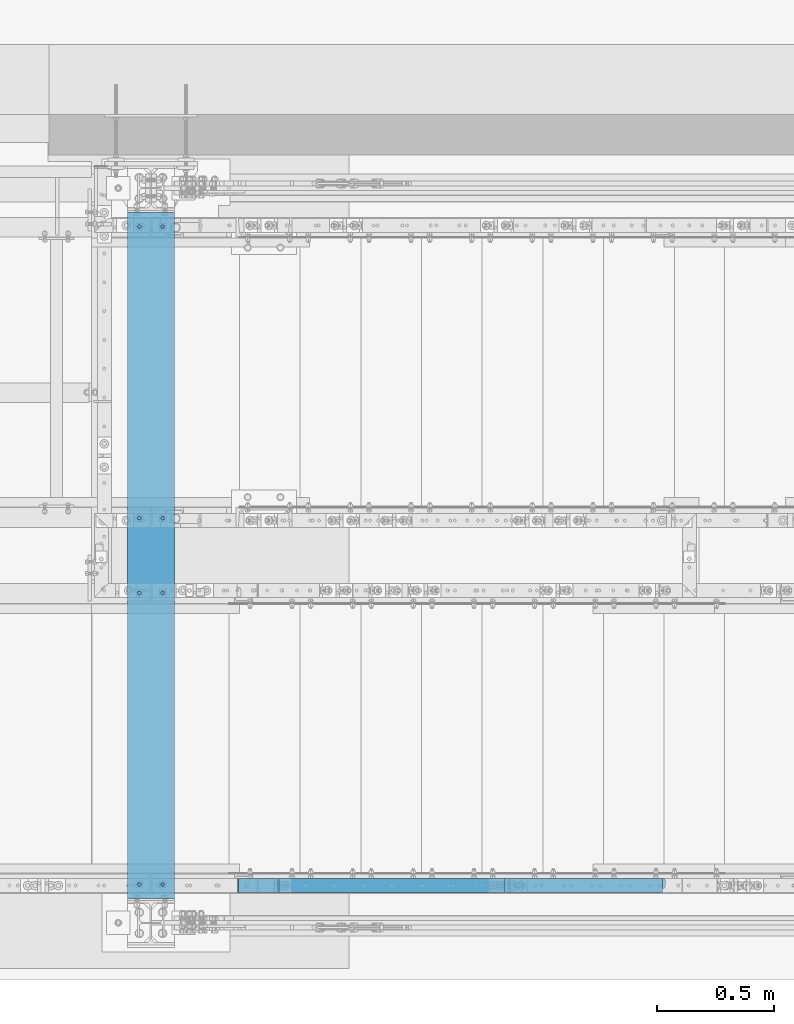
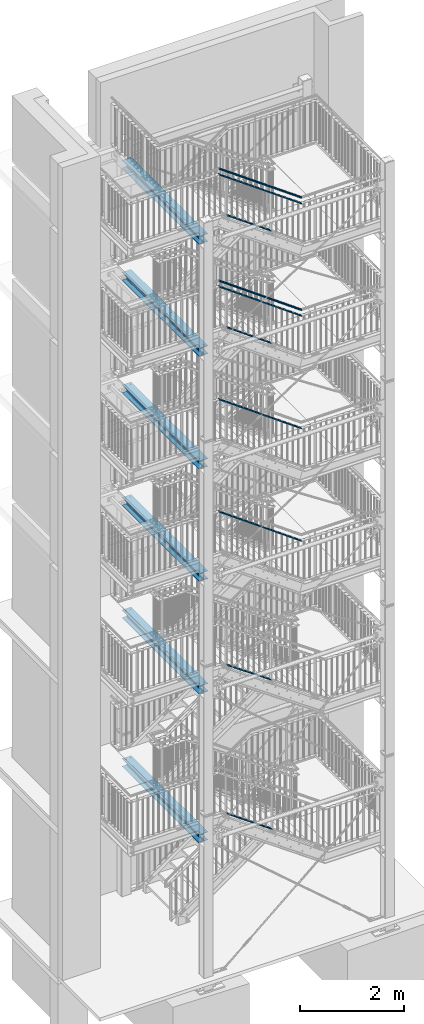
# One storey, part 120 of 831: 10 members, 6 beams, 44 openings.
"""IFC2X3 building model written with IfcOpenShell, lengths in millimetres."""

from ifc_helpers import new_model, entity, si_unit, converted_unit, frame, frame_2d, origin, origin_with_axes, origin_2d, origin_2d_with_axis, place, context, project, spatial, rectangle, circle, hollow_circle, i_section, extrude, clip, halfspace, material, element, save


model = new_model("IFC2X3")

# Units and contexts
model_context = context("Model", 3, precision=1e-09, world=origin_with_axes())
ifc_project = project(units=[si_unit("LENGTHUNIT", "METRE", prefix="MILLI"), si_unit("AREAUNIT", "SQUARE_METRE"), si_unit("VOLUMEUNIT", "CUBIC_METRE"), converted_unit("PLANEANGLEUNIT", "DEGREE", entity("IfcPlaneAngleMeasure", 0.01745329), si_unit("PLANEANGLEUNIT", "RADIAN"), dimensions=[0, 0, 0, 0, 0, 0, 0])], contexts=[model_context])

# Site, building, storey
site_placement = place(None, origin_with_axes())
site = spatial("IfcSite", under=ifc_project, at=site_placement, Name="Site", CompositionType="ELEMENT")
building_placement = place(site_placement, origin_with_axes())
building = spatial("IfcBuilding", under=site, at=building_placement, Name="Struktur 1", CompositionType="ELEMENT")
storey_placement = place(building_placement, origin_with_axes())
storey = spatial("IfcBuildingStorey", under=building, at=storey_placement, Name="Default Storey", CompositionType="ELEMENT", Elevation=0.0)

# Members
ifc_material = material(Name="S235JR")
member_1_placement = place(None, frame((7082.241910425, 4535.536971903, 15018.019885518), z_axis=(0.810033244, 0.0, -0.586383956), x_axis=(-0.586383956, 0.0, -0.810033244)))
element("IfcMember", 1, at=member_1_placement, inside=storey, material=ifc_material, Name="Gel?nder", ObjectType="Gel?nder", context=model_context, shape_type="Clipping", body=[
    clip(clip(extrude(hollow_circle(Radius=21.2, WallThickness=3.2, at=origin_2d()), origin(), (0.0, 0.0, -1.0), 2309.852130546), halfspace(frame((15677.254505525, -4535.536971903, 5047.335316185), z_axis=(0.308193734, 0.0, -0.951323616), x_axis=(0.0, -1.0, 0.0)), True)), halfspace(frame((16336.003889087, -4535.536971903, 3013.926535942), z_axis=(-0.308193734, 0.0, 0.951323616), x_axis=(0.0, 1.0, 0.0)), True)),
])
member_2_placement = place(None, frame((6369.360054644, 4526.736971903, 14514.319464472), z_axis=(0.810033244, 0.0, -0.586383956), x_axis=(-0.586383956, 0.0, -0.810033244)))
element("IfcMember", 2, at=member_2_placement, inside=storey, material=ifc_material, Name="Railing_Kneerail_Stair#16", ObjectType="Railing_Kneerail_Stair#16", context=model_context, shape_type="SweptSolid", body=[
    extrude(rectangle(XDim=10.0, YDim=60.0, at=origin_2d()), origin(), (0.0, 0.0, -1.0), 1190.242882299),
])
member_3_placement = place(None, frame((7082.280686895, 4535.536971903, 17645.597175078), z_axis=(0.811618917, 0.0, -0.584187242), x_axis=(-0.584187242, 0.0, -0.811618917)))
element("IfcMember", 3, at=member_3_placement, inside=storey, material=ifc_material, Name="Gel?nder", ObjectType="Gel?nder", context=model_context, shape_type="Clipping", body=[
    clip(clip(extrude(hollow_circle(Radius=21.2, WallThickness=3.2, at=origin_2d()), origin(), (0.0, 0.0, -1.0), 2305.43488958), halfspace(frame((18716.438937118, -4535.536971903, 3761.500887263), z_axis=(-0.306904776, 0.0, 0.951740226), x_axis=(0.0, 1.0, 0.0)), True)), halfspace(frame((18061.439551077, -4535.536971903, 5792.714841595), z_axis=(0.306904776, 0.0, -0.951740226), x_axis=(0.0, -1.0, 0.0)), True)),
])
member_4_placement = place(None, frame((6369.371038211, 4526.736971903, 17138.82228556), z_axis=(0.811618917, 0.0, -0.584187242), x_axis=(-0.584187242, 0.0, -0.811618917)))
element("IfcMember", 4, at=member_4_placement, inside=storey, material=ifc_material, Name="Railing_Kneerail_Stair#16", ObjectType="Railing_Kneerail_Stair#16", context=model_context, shape_type="SweptSolid", body=[
    extrude(rectangle(XDim=10.0, YDim=60.0, at=origin_2d()), origin(), (0.0, 0.0, -1.0), 1187.944551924),
])
member_5_placement = place(None, frame((7046.956167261, 4526.736971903, 17538.741905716), z_axis=(0.811618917, 0.0, -0.584187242), x_axis=(-0.584187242, 0.0, -0.811618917)))
element("IfcMember", 5, at=member_5_placement, inside=storey, material=ifc_material, Name="Railing_Kneerail_Stair#1015", ObjectType="Railing_Kneerail_Stair#1015", context=model_context, shape_type="SweptSolid", body=[
    extrude(rectangle(XDim=10.0, YDim=60.0, at=origin_2d()), origin(), (0.0, 0.0, -1.0), 2239.207046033),
])
member_6_placement = place(None, frame((7046.913465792, 4526.736971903, 14911.249833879), z_axis=(0.810033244, 0.0, -0.586383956), x_axis=(-0.586383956, 0.0, -0.810033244)))
element("IfcMember", 6, at=member_6_placement, inside=storey, material=ifc_material, Name="Railing_Kneerail_Stair#1015", ObjectType="Railing_Kneerail_Stair#1015", context=model_context, shape_type="SweptSolid", body=[
    extrude(rectangle(XDim=10.0, YDim=60.0, at=origin_2d()), origin(), (0.0, 0.0, -1.0), 2243.581734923),
])
member_7_placement = place(None, frame((7046.936219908, 4526.736971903, 12280.245605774), z_axis=(0.810878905, 0.0, -0.585213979), x_axis=(-0.585213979, 0.0, -0.810878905)))
element("IfcMember", 7, at=member_7_placement, inside=storey, material=ifc_material, Name="Railing_Kneerail_Stair#1015", ObjectType="Railing_Kneerail_Stair#1015", context=model_context, shape_type="SweptSolid", body=[
    extrude(rectangle(XDim=10.0, YDim=60.0, at=origin_2d()), origin(), (0.0, 0.0, -1.0), 2241.24651141),
])
member_8_placement = place(None, frame((7046.92199323, 4526.736971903, 9650.74824821), z_axis=(0.810350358, 0.0, -0.585945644), x_axis=(-0.585945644, 0.0, -0.810350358)))
element("IfcMember", 8, at=member_8_placement, inside=storey, material=ifc_material, Name="Railing_Kneerail_Stair#1017", ObjectType="Railing_Kneerail_Stair#1017", context=model_context, shape_type="SweptSolid", body=[
    extrude(rectangle(XDim=10.0, YDim=60.0, at=origin_2d()), origin(), (0.0, 0.0, -1.0), 2242.705476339),
])
member_9_placement = place(None, frame((6393.620004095, 4526.736971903, 3143.138407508), z_axis=(0.814635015, 0.0, -0.579973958), x_axis=(-0.579973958, 0.0, -0.814635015)))
element("IfcMember", 9, at=member_9_placement, inside=storey, material=ifc_material, Name="Railing_Kneerail_Stair#14", ObjectType="Railing_Kneerail_Stair#14", context=model_context, shape_type="SweptSolid", body=[
    extrude(rectangle(XDim=10.0, YDim=60.0, at=origin_2d()), origin(), (0.0, 0.0, -1.0), 1218.06374537),
])
member_10_placement = place(None, frame((6369.416333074, 4526.736971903, 6643.124526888), z_axis=(0.818063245, 0.0, -0.57512827), x_axis=(-0.57512827, 0.0, -0.818063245)))
element("IfcMember", 10, at=member_10_placement, inside=storey, material=ifc_material, Name="Railing_Kneerail_Stair#16", ObjectType="Railing_Kneerail_Stair#16", context=model_context, shape_type="SweptSolid", body=[
    extrude(rectangle(XDim=10.0, YDim=60.0, at=origin_2d()), origin(), (0.0, 0.0, -1.0), 1178.697204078),
])

# Beam, openings
beam_1_placement = place(None, frame((4856.713402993, 7559.668114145, 14879.0), z_axis=(0.0, -1.0, 0.0), x_axis=(-1.0, 0.0, 0.0)))
beam_1 = element("IfcBeam", 11, at=beam_1_placement, inside=storey, material=ifc_material, Name="Girder", ObjectType="Girder", context=model_context, shape_type="Clipping", body=[
    clip(clip(extrude(i_section(OverallWidth=200.0, OverallDepth=190.0, WebThickness=6.5, FlangeThickness=10.0, FilletRadius=18.0, at=origin_2d()), origin(), (0.0, 0.0, 1.0), 3235.862284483), halfspace(frame((4856.713402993, 14879.0, 3087.930142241), z_axis=(0.0, 0.0, -1.0), x_axis=(1.0, 0.0, 0.0)), True)), halfspace(frame((4856.713402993, 14879.0, 147.932142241), z_axis=(0.0, 0.0, 1.0), x_axis=(-1.0, 0.0, 0.0)), True)),
])
opening_1_placement = place(beam_1_placement, frame((-50.0, -84.5, 1784.932142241), z_axis=(0.0, 1.0, 0.0), x_axis=(-1.0, 0.0, 0.0)))
element("IfcOpeningElement", 12, at=opening_1_placement, cuts=beam_1, ObjectType="Opening", context=model_context, shape_type="SweptSolid", body=[
    extrude(circle(Radius=7.001, at=frame_2d((0.0, -7.001), x_axis=(1.0, 0.0))), origin(), (0.0, 0.0, -1.0), 11.0),
])
opening_2_placement = place(beam_1_placement, frame((50.0, -84.5, 207.931142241), z_axis=(0.0, -1.0, 0.0), x_axis=(0.0, 0.0, -1.0)))
element("IfcOpeningElement", 13, at=opening_2_placement, cuts=beam_1, ObjectType="Opening", context=model_context, shape_type="SweptSolid", body=[
    extrude(circle(Radius=7.001, at=origin_2d_with_axis()), origin(), (0.0, 0.0, 1.0), 11.0),
])
opening_3_placement = place(beam_1_placement, frame((-50.0, -84.5, 1457.931142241), z_axis=(0.0, -1.0, 0.0), x_axis=(0.0, 0.0, -1.0)))
element("IfcOpeningElement", 14, at=opening_3_placement, cuts=beam_1, ObjectType="Opening", context=model_context, shape_type="SweptSolid", body=[
    extrude(circle(Radius=7.001, at=origin_2d_with_axis()), origin(), (0.0, 0.0, 1.0), 11.0),
])
opening_4_placement = place(beam_1_placement, frame((50.0, -84.5, 3034.932142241), z_axis=(0.0, 1.0, 0.0), x_axis=(-1.0, 0.0, 0.0)))
element("IfcOpeningElement", 15, at=opening_4_placement, cuts=beam_1, ObjectType="Opening", context=model_context, shape_type="SweptSolid", body=[
    extrude(circle(Radius=7.001, at=frame_2d((0.0, -7.001), x_axis=(1.0, 0.0))), origin(), (0.0, 0.0, -1.0), 11.0),
])
opening_5_placement = place(beam_1_placement, frame((-50.0, -84.5, 207.931142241), z_axis=(0.0, -1.0, 0.0), x_axis=(0.0, 0.0, -1.0)))
element("IfcOpeningElement", 16, at=opening_5_placement, cuts=beam_1, ObjectType="Opening", context=model_context, shape_type="SweptSolid", body=[
    extrude(circle(Radius=7.001, at=origin_2d_with_axis()), origin(), (0.0, 0.0, 1.0), 11.0),
])
opening_6_placement = place(beam_1_placement, frame((50.0, -84.5, 1457.931142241), z_axis=(0.0, -1.0, 0.0), x_axis=(0.0, 0.0, -1.0)))
element("IfcOpeningElement", 17, at=opening_6_placement, cuts=beam_1, ObjectType="Opening", context=model_context, shape_type="SweptSolid", body=[
    extrude(circle(Radius=7.001, at=origin_2d_with_axis()), origin(), (0.0, 0.0, 1.0), 11.0),
])
opening_7_placement = place(beam_1_placement, frame((-50.0, -84.5, 3034.932142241), z_axis=(0.0, 1.0, 0.0), x_axis=(-1.0, 0.0, 0.0)))
element("IfcOpeningElement", 18, at=opening_7_placement, cuts=beam_1, ObjectType="Opening", context=model_context, shape_type="SweptSolid", body=[
    extrude(circle(Radius=7.001, at=frame_2d((0.0, -7.001), x_axis=(1.0, 0.0))), origin(), (0.0, 0.0, -1.0), 11.0),
])
opening_8_placement = place(beam_1_placement, frame((50.0, -84.5, 1784.932142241), z_axis=(0.0, 1.0, 0.0), x_axis=(-1.0, 0.0, 0.0)))
element("IfcOpeningElement", 19, at=opening_8_placement, cuts=beam_1, ObjectType="Opening", context=model_context, shape_type="SweptSolid", body=[
    extrude(circle(Radius=7.001, at=frame_2d((0.0, -7.001), x_axis=(1.0, 0.0))), origin(), (0.0, 0.0, -1.0), 11.0),
])

beam_2_placement = place(None, frame((4856.713402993, 7559.668114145, 12244.0), z_axis=(0.0, -1.0, 0.0), x_axis=(-1.0, 0.0, 0.0)))
beam_2 = element("IfcBeam", 20, at=beam_2_placement, inside=storey, material=ifc_material, Name="Girder", ObjectType="Girder", context=model_context, shape_type="Clipping", body=[
    clip(clip(extrude(i_section(OverallWidth=200.0, OverallDepth=190.0, WebThickness=6.5, FlangeThickness=10.0, FilletRadius=18.0, at=origin_2d()), origin(), (0.0, 0.0, 1.0), 3235.862284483), halfspace(frame((4856.713402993, 12244.0, 3087.930142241), z_axis=(0.0, 0.0, -1.0), x_axis=(1.0, 0.0, 0.0)), True)), halfspace(frame((4856.713402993, 12244.0, 147.932142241), z_axis=(0.0, 0.0, 1.0), x_axis=(-1.0, 0.0, 0.0)), True)),
])
opening_9_placement = place(beam_2_placement, frame((-50.0, -84.5, 1784.932142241), z_axis=(0.0, 1.0, 0.0), x_axis=(-1.0, 0.0, 0.0)))
element("IfcOpeningElement", 21, at=opening_9_placement, cuts=beam_2, ObjectType="Opening", context=model_context, shape_type="SweptSolid", body=[
    extrude(circle(Radius=7.001, at=frame_2d((0.0, -7.001), x_axis=(1.0, 0.0))), origin(), (0.0, 0.0, -1.0), 11.0),
])
opening_10_placement = place(beam_2_placement, frame((50.0, -84.5, 207.931142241), z_axis=(0.0, -1.0, 0.0), x_axis=(0.0, 0.0, -1.0)))
element("IfcOpeningElement", 22, at=opening_10_placement, cuts=beam_2, ObjectType="Opening", context=model_context, shape_type="SweptSolid", body=[
    extrude(circle(Radius=7.001, at=origin_2d_with_axis()), origin(), (0.0, 0.0, 1.0), 11.0),
])
opening_11_placement = place(beam_2_placement, frame((-50.0, -84.5, 207.931142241), z_axis=(0.0, -1.0, 0.0), x_axis=(0.0, 0.0, -1.0)))
element("IfcOpeningElement", 23, at=opening_11_placement, cuts=beam_2, ObjectType="Opening", context=model_context, shape_type="SweptSolid", body=[
    extrude(circle(Radius=7.001, at=origin_2d_with_axis()), origin(), (0.0, 0.0, 1.0), 11.0),
])
opening_12_placement = place(beam_2_placement, frame((-50.0, -84.5, 1457.931142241), z_axis=(0.0, -1.0, 0.0), x_axis=(0.0, 0.0, -1.0)))
element("IfcOpeningElement", 24, at=opening_12_placement, cuts=beam_2, ObjectType="Opening", context=model_context, shape_type="SweptSolid", body=[
    extrude(circle(Radius=7.001, at=origin_2d_with_axis()), origin(), (0.0, 0.0, 1.0), 11.0),
])
opening_13_placement = place(beam_2_placement, frame((50.0, -84.5, 3034.932142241), z_axis=(0.0, 1.0, 0.0), x_axis=(-1.0, 0.0, 0.0)))
element("IfcOpeningElement", 25, at=opening_13_placement, cuts=beam_2, ObjectType="Opening", context=model_context, shape_type="SweptSolid", body=[
    extrude(circle(Radius=7.001, at=frame_2d((0.0, -7.001), x_axis=(1.0, 0.0))), origin(), (0.0, 0.0, -1.0), 11.0),
])
opening_14_placement = place(beam_2_placement, frame((50.0, -84.5, 1784.932142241), z_axis=(0.0, 1.0, 0.0), x_axis=(-1.0, 0.0, 0.0)))
element("IfcOpeningElement", 26, at=opening_14_placement, cuts=beam_2, ObjectType="Opening", context=model_context, shape_type="SweptSolid", body=[
    extrude(circle(Radius=7.001, at=frame_2d((0.0, -7.001), x_axis=(1.0, 0.0))), origin(), (0.0, 0.0, -1.0), 11.0),
])
opening_15_placement = place(beam_2_placement, frame((-50.0, -84.5, 3034.932142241), z_axis=(0.0, 1.0, 0.0), x_axis=(-1.0, 0.0, 0.0)))
element("IfcOpeningElement", 27, at=opening_15_placement, cuts=beam_2, ObjectType="Opening", context=model_context, shape_type="SweptSolid", body=[
    extrude(circle(Radius=7.001, at=frame_2d((0.0, -7.001), x_axis=(1.0, 0.0))), origin(), (0.0, 0.0, -1.0), 11.0),
])
opening_16_placement = place(beam_2_placement, frame((50.0, -84.5, 1457.931142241), z_axis=(0.0, -1.0, 0.0), x_axis=(0.0, 0.0, -1.0)))
element("IfcOpeningElement", 28, at=opening_16_placement, cuts=beam_2, ObjectType="Opening", context=model_context, shape_type="SweptSolid", body=[
    extrude(circle(Radius=7.001, at=origin_2d_with_axis()), origin(), (0.0, 0.0, 1.0), 11.0),
])

beam_3_placement = place(None, frame((4856.713402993, 7559.668114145, 9617.0), z_axis=(0.0, -1.0, 0.0), x_axis=(-1.0, 0.0, 0.0)))
beam_3 = element("IfcBeam", 29, at=beam_3_placement, inside=storey, material=ifc_material, Name="Girder", ObjectType="Girder", context=model_context, shape_type="Clipping", body=[
    clip(clip(extrude(i_section(OverallWidth=200.0, OverallDepth=190.0, WebThickness=6.5, FlangeThickness=10.0, FilletRadius=18.0, at=origin_2d()), origin(), (0.0, 0.0, 1.0), 3235.862284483), halfspace(frame((4856.713402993, 9617.0, 3087.930142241), z_axis=(0.0, 0.0, -1.0), x_axis=(1.0, 0.0, 0.0)), True)), halfspace(frame((4856.713402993, 9617.0, 147.932142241), z_axis=(0.0, 0.0, 1.0), x_axis=(-1.0, 0.0, 0.0)), True)),
])
opening_17_placement = place(beam_3_placement, frame((-50.0, -84.5, 1784.932142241), z_axis=(0.0, 1.0, 0.0), x_axis=(-1.0, 0.0, 0.0)))
element("IfcOpeningElement", 30, at=opening_17_placement, cuts=beam_3, ObjectType="Opening", context=model_context, shape_type="SweptSolid", body=[
    extrude(circle(Radius=7.001, at=frame_2d((0.0, -7.001), x_axis=(1.0, 0.0))), origin(), (0.0, 0.0, -1.0), 11.0),
])
opening_18_placement = place(beam_3_placement, frame((50.0, -84.5, 1457.931142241), z_axis=(0.0, -1.0, 0.0), x_axis=(0.0, 0.0, -1.0)))
element("IfcOpeningElement", 31, at=opening_18_placement, cuts=beam_3, ObjectType="Opening", context=model_context, shape_type="SweptSolid", body=[
    extrude(circle(Radius=7.001, at=origin_2d_with_axis()), origin(), (0.0, 0.0, 1.0), 11.0),
])
opening_19_placement = place(beam_3_placement, frame((-50.0, -84.5, 1457.931142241), z_axis=(0.0, -1.0, 0.0), x_axis=(0.0, 0.0, -1.0)))
element("IfcOpeningElement", 32, at=opening_19_placement, cuts=beam_3, ObjectType="Opening", context=model_context, shape_type="SweptSolid", body=[
    extrude(circle(Radius=7.001, at=origin_2d_with_axis()), origin(), (0.0, 0.0, 1.0), 11.0),
])
opening_20_placement = place(beam_3_placement, frame((50.0, -84.5, 207.931142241), z_axis=(0.0, -1.0, 0.0), x_axis=(0.0, 0.0, -1.0)))
element("IfcOpeningElement", 33, at=opening_20_placement, cuts=beam_3, ObjectType="Opening", context=model_context, shape_type="SweptSolid", body=[
    extrude(circle(Radius=7.001, at=origin_2d_with_axis()), origin(), (0.0, 0.0, 1.0), 11.0),
])
opening_21_placement = place(beam_3_placement, frame((50.0, -84.5, 3034.932142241), z_axis=(0.0, 1.0, 0.0), x_axis=(-1.0, 0.0, 0.0)))
element("IfcOpeningElement", 34, at=opening_21_placement, cuts=beam_3, ObjectType="Opening", context=model_context, shape_type="SweptSolid", body=[
    extrude(circle(Radius=7.001, at=frame_2d((0.0, -7.001), x_axis=(1.0, 0.0))), origin(), (0.0, 0.0, -1.0), 11.0),
])
opening_22_placement = place(beam_3_placement, frame((-50.0, -84.5, 3034.932142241), z_axis=(0.0, 1.0, 0.0), x_axis=(-1.0, 0.0, 0.0)))
element("IfcOpeningElement", 35, at=opening_22_placement, cuts=beam_3, ObjectType="Opening", context=model_context, shape_type="SweptSolid", body=[
    extrude(circle(Radius=7.001, at=frame_2d((0.0, -7.001), x_axis=(1.0, 0.0))), origin(), (0.0, 0.0, -1.0), 11.0),
])
opening_23_placement = place(beam_3_placement, frame((-50.0, -84.5, 207.931142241), z_axis=(0.0, -1.0, 0.0), x_axis=(0.0, 0.0, -1.0)))
element("IfcOpeningElement", 36, at=opening_23_placement, cuts=beam_3, ObjectType="Opening", context=model_context, shape_type="SweptSolid", body=[
    extrude(circle(Radius=7.001, at=origin_2d_with_axis()), origin(), (0.0, 0.0, 1.0), 11.0),
])
opening_24_placement = place(beam_3_placement, frame((50.0, -84.5, 1784.932142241), z_axis=(0.0, 1.0, 0.0), x_axis=(-1.0, 0.0, 0.0)))
element("IfcOpeningElement", 37, at=opening_24_placement, cuts=beam_3, ObjectType="Opening", context=model_context, shape_type="SweptSolid", body=[
    extrude(circle(Radius=7.001, at=frame_2d((0.0, -7.001), x_axis=(1.0, 0.0))), origin(), (0.0, 0.0, -1.0), 11.0),
])

beam_4_placement = place(None, frame((4856.713402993, 7559.668114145, 6985.0), z_axis=(0.0, -1.0, 0.0), x_axis=(-1.0, 0.0, 0.0)))
beam_4 = element("IfcBeam", 38, at=beam_4_placement, inside=storey, material=ifc_material, Name="Girder", ObjectType="Girder", context=model_context, shape_type="Clipping", body=[
    clip(clip(extrude(i_section(OverallWidth=200.0, OverallDepth=190.0, WebThickness=6.5, FlangeThickness=10.0, FilletRadius=18.0, at=origin_2d()), origin(), (0.0, 0.0, 1.0), 3235.862284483), halfspace(frame((4856.713402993, 6985.0, 147.932142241), z_axis=(0.0, 0.0, 1.0), x_axis=(-1.0, 0.0, 0.0)), True)), halfspace(frame((4856.713402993, 6985.0, 3087.930142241), z_axis=(0.0, 0.0, -1.0), x_axis=(1.0, 0.0, 0.0)), True)),
])
opening_25_placement = place(beam_4_placement, frame((50.0, -84.5, 1784.932142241), z_axis=(0.0, 1.0, 0.0), x_axis=(-1.0, 0.0, 0.0)))
element("IfcOpeningElement", 39, at=opening_25_placement, cuts=beam_4, ObjectType="Opening", context=model_context, shape_type="SweptSolid", body=[
    extrude(circle(Radius=7.001, at=frame_2d((0.0, -7.001), x_axis=(1.0, 0.0))), origin(), (0.0, 0.0, -1.0), 11.0),
])
opening_26_placement = place(beam_4_placement, frame((50.0, -84.5, 1457.931142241), z_axis=(0.0, -1.0, 0.0), x_axis=(0.0, 0.0, -1.0)))
element("IfcOpeningElement", 40, at=opening_26_placement, cuts=beam_4, ObjectType="Opening", context=model_context, shape_type="SweptSolid", body=[
    extrude(circle(Radius=7.001, at=origin_2d_with_axis()), origin(), (0.0, 0.0, 1.0), 11.0),
])
opening_27_placement = place(beam_4_placement, frame((-50.0, -84.5, 1784.932142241), z_axis=(0.0, 1.0, 0.0), x_axis=(-1.0, 0.0, 0.0)))
element("IfcOpeningElement", 41, at=opening_27_placement, cuts=beam_4, ObjectType="Opening", context=model_context, shape_type="SweptSolid", body=[
    extrude(circle(Radius=7.001, at=frame_2d((0.0, -7.001), x_axis=(1.0, 0.0))), origin(), (0.0, 0.0, -1.0), 11.0),
])
opening_28_placement = place(beam_4_placement, frame((-50.0, -84.5, 1457.931142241), z_axis=(0.0, -1.0, 0.0), x_axis=(0.0, 0.0, -1.0)))
element("IfcOpeningElement", 42, at=opening_28_placement, cuts=beam_4, ObjectType="Opening", context=model_context, shape_type="SweptSolid", body=[
    extrude(circle(Radius=7.001, at=origin_2d_with_axis()), origin(), (0.0, 0.0, 1.0), 11.0),
])
opening_29_placement = place(beam_4_placement, frame((50.0, -84.5, 3034.932142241), z_axis=(0.0, 1.0, 0.0), x_axis=(-1.0, 0.0, 0.0)))
element("IfcOpeningElement", 43, at=opening_29_placement, cuts=beam_4, ObjectType="Opening", context=model_context, shape_type="SweptSolid", body=[
    extrude(circle(Radius=7.001, at=frame_2d((0.0, -7.001), x_axis=(1.0, 0.0))), origin(), (0.0, 0.0, -1.0), 11.0),
])
opening_30_placement = place(beam_4_placement, frame((-50.0, -84.5, 3034.932142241), z_axis=(0.0, 1.0, 0.0), x_axis=(-1.0, 0.0, 0.0)))
element("IfcOpeningElement", 44, at=opening_30_placement, cuts=beam_4, ObjectType="Opening", context=model_context, shape_type="SweptSolid", body=[
    extrude(circle(Radius=7.001, at=frame_2d((0.0, -7.001), x_axis=(1.0, 0.0))), origin(), (0.0, 0.0, -1.0), 11.0),
])
opening_31_placement = place(beam_4_placement, frame((50.0, -84.5, 207.931142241), z_axis=(0.0, -1.0, 0.0), x_axis=(0.0, 0.0, -1.0)))
element("IfcOpeningElement", 45, at=opening_31_placement, cuts=beam_4, ObjectType="Opening", context=model_context, shape_type="SweptSolid", body=[
    extrude(circle(Radius=7.001, at=origin_2d_with_axis()), origin(), (0.0, 0.0, 1.0), 11.0),
])
opening_32_placement = place(beam_4_placement, frame((-50.0, -84.5, 207.931142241), z_axis=(0.0, -1.0, 0.0), x_axis=(0.0, 0.0, -1.0)))
element("IfcOpeningElement", 46, at=opening_32_placement, cuts=beam_4, ObjectType="Opening", context=model_context, shape_type="SweptSolid", body=[
    extrude(circle(Radius=7.001, at=origin_2d_with_axis()), origin(), (0.0, 0.0, 1.0), 11.0),
])

beam_5_placement = place(None, frame((4856.713402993, 7559.668114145, 3512.0), z_axis=(0.0, -1.0, 0.0), x_axis=(-1.0, 0.0, 0.0)))
beam_5 = element("IfcBeam", 47, at=beam_5_placement, inside=storey, material=ifc_material, Name="Girder", ObjectType="Girder", context=model_context, shape_type="Clipping", body=[
    clip(clip(extrude(i_section(OverallWidth=200.0, OverallDepth=190.0, WebThickness=6.5, FlangeThickness=10.0, FilletRadius=18.0, at=origin_2d()), origin(), (0.0, 0.0, 1.0), 3235.862284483), halfspace(frame((4856.713402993, 3512.0, 3087.930142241), z_axis=(0.0, 0.0, -1.0), x_axis=(1.0, 0.0, 0.0)), True)), halfspace(frame((4856.713402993, 3512.0, 147.932142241), z_axis=(0.0, 0.0, 1.0), x_axis=(-1.0, 0.0, 0.0)), True)),
])
opening_33_placement = place(beam_5_placement, frame((50.0, -84.5, 1784.932142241), z_axis=(0.0, 1.0, 0.0), x_axis=(-1.0, 0.0, 0.0)))
element("IfcOpeningElement", 48, at=opening_33_placement, cuts=beam_5, ObjectType="Opening", context=model_context, shape_type="SweptSolid", body=[
    extrude(circle(Radius=7.001, at=frame_2d((0.0, -7.001), x_axis=(1.0, 0.0))), origin(), (0.0, 0.0, -1.0), 11.0),
])
opening_34_placement = place(beam_5_placement, frame((-50.0, -84.5, 1457.931142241), z_axis=(0.0, -1.0, 0.0), x_axis=(0.0, 0.0, -1.0)))
element("IfcOpeningElement", 49, at=opening_34_placement, cuts=beam_5, ObjectType="Opening", context=model_context, shape_type="SweptSolid", body=[
    extrude(circle(Radius=7.001, at=origin_2d_with_axis()), origin(), (0.0, 0.0, 1.0), 11.0),
])
opening_35_placement = place(beam_5_placement, frame((50.0, -84.5, 1457.931142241), z_axis=(0.0, -1.0, 0.0), x_axis=(0.0, 0.0, -1.0)))
element("IfcOpeningElement", 50, at=opening_35_placement, cuts=beam_5, ObjectType="Opening", context=model_context, shape_type="SweptSolid", body=[
    extrude(circle(Radius=7.001, at=origin_2d_with_axis()), origin(), (0.0, 0.0, 1.0), 11.0),
])
opening_36_placement = place(beam_5_placement, frame((50.0, -84.5, 207.931142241), z_axis=(0.0, -1.0, 0.0), x_axis=(0.0, 0.0, -1.0)))
element("IfcOpeningElement", 51, at=opening_36_placement, cuts=beam_5, ObjectType="Opening", context=model_context, shape_type="SweptSolid", body=[
    extrude(circle(Radius=7.001, at=origin_2d_with_axis()), origin(), (0.0, 0.0, 1.0), 11.0),
])
opening_37_placement = place(beam_5_placement, frame((50.0, -84.5, 3034.932142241), z_axis=(0.0, 1.0, 0.0), x_axis=(-1.0, 0.0, 0.0)))
element("IfcOpeningElement", 52, at=opening_37_placement, cuts=beam_5, ObjectType="Opening", context=model_context, shape_type="SweptSolid", body=[
    extrude(circle(Radius=7.001, at=frame_2d((0.0, -7.001), x_axis=(1.0, 0.0))), origin(), (0.0, 0.0, -1.0), 11.0),
])
opening_38_placement = place(beam_5_placement, frame((-50.0, -84.5, 3034.932142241), z_axis=(0.0, 1.0, 0.0), x_axis=(-1.0, 0.0, 0.0)))
element("IfcOpeningElement", 53, at=opening_38_placement, cuts=beam_5, ObjectType="Opening", context=model_context, shape_type="SweptSolid", body=[
    extrude(circle(Radius=7.001, at=frame_2d((0.0, -7.001), x_axis=(1.0, 0.0))), origin(), (0.0, 0.0, -1.0), 11.0),
])
opening_39_placement = place(beam_5_placement, frame((-50.0, -84.5, 1784.932142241), z_axis=(0.0, 1.0, 0.0), x_axis=(-1.0, 0.0, 0.0)))
element("IfcOpeningElement", 54, at=opening_39_placement, cuts=beam_5, ObjectType="Opening", context=model_context, shape_type="SweptSolid", body=[
    extrude(circle(Radius=7.001, at=frame_2d((0.0, -7.001), x_axis=(1.0, 0.0))), origin(), (0.0, 0.0, -1.0), 11.0),
])
opening_40_placement = place(beam_5_placement, frame((-50.0, -84.5, 207.931142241), z_axis=(0.0, -1.0, 0.0), x_axis=(0.0, 0.0, -1.0)))
element("IfcOpeningElement", 55, at=opening_40_placement, cuts=beam_5, ObjectType="Opening", context=model_context, shape_type="SweptSolid", body=[
    extrude(circle(Radius=7.001, at=origin_2d_with_axis()), origin(), (0.0, 0.0, 1.0), 11.0),
])

beam_6_placement = place(None, frame((4856.713402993, 7559.668114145, 17498.999999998), z_axis=(0.0, -1.0, 0.0), x_axis=(-1.0, 0.0, 0.0)))
beam_6 = element("IfcBeam", 56, at=beam_6_placement, inside=storey, material=ifc_material, Name="Girder", ObjectType="Girder", context=model_context, shape_type="Clipping", body=[
    clip(clip(extrude(i_section(OverallWidth=200.0, OverallDepth=190.0, WebThickness=6.5, FlangeThickness=10.0, FilletRadius=18.0, at=origin_2d()), origin(), (0.0, 0.0, 1.0), 3235.862284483), halfspace(frame((4856.713402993, 17498.999999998, 3087.930142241), z_axis=(0.0, 0.0, -1.0), x_axis=(1.0, 0.0, 0.0)), True)), halfspace(frame((4856.713402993, 17498.999999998, 147.932142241), z_axis=(0.0, 0.0, 1.0), x_axis=(-1.0, 0.0, 0.0)), True)),
])
opening_41_placement = place(beam_6_placement, frame((-50.0, -84.5, 3034.932142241), z_axis=(0.0, 1.0, 0.0), x_axis=(-1.0, 0.0, 0.0)))
element("IfcOpeningElement", 57, at=opening_41_placement, cuts=beam_6, ObjectType="Opening", context=model_context, shape_type="SweptSolid", body=[
    extrude(circle(Radius=7.001, at=frame_2d((0.0, -7.001), x_axis=(1.0, 0.0))), origin(), (0.0, 0.0, -1.0), 11.0),
])
opening_42_placement = place(beam_6_placement, frame((-50.0, -84.5, 1784.932142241), z_axis=(0.0, 1.0, 0.0), x_axis=(-1.0, 0.0, 0.0)))
element("IfcOpeningElement", 58, at=opening_42_placement, cuts=beam_6, ObjectType="Opening", context=model_context, shape_type="SweptSolid", body=[
    extrude(circle(Radius=7.001, at=frame_2d((0.0, -7.001), x_axis=(1.0, 0.0))), origin(), (0.0, 0.0, -1.0), 11.0),
])
opening_43_placement = place(beam_6_placement, frame((50.0, -84.5, 3034.932142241), z_axis=(0.0, 1.0, 0.0), x_axis=(-1.0, 0.0, 0.0)))
element("IfcOpeningElement", 59, at=opening_43_placement, cuts=beam_6, ObjectType="Opening", context=model_context, shape_type="SweptSolid", body=[
    extrude(circle(Radius=7.001, at=frame_2d((0.0, -7.001), x_axis=(1.0, 0.0))), origin(), (0.0, 0.0, -1.0), 11.0),
])
opening_44_placement = place(beam_6_placement, frame((50.0, -84.5, 1784.932142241), z_axis=(0.0, 1.0, 0.0), x_axis=(-1.0, 0.0, 0.0)))
element("IfcOpeningElement", 60, at=opening_44_placement, cuts=beam_6, ObjectType="Opening", context=model_context, shape_type="SweptSolid", body=[
    extrude(circle(Radius=7.001, at=frame_2d((0.0, -7.001), x_axis=(1.0, 0.0))), origin(), (0.0, 0.0, -1.0), 11.0),
])

save(model, "model.ifc")
